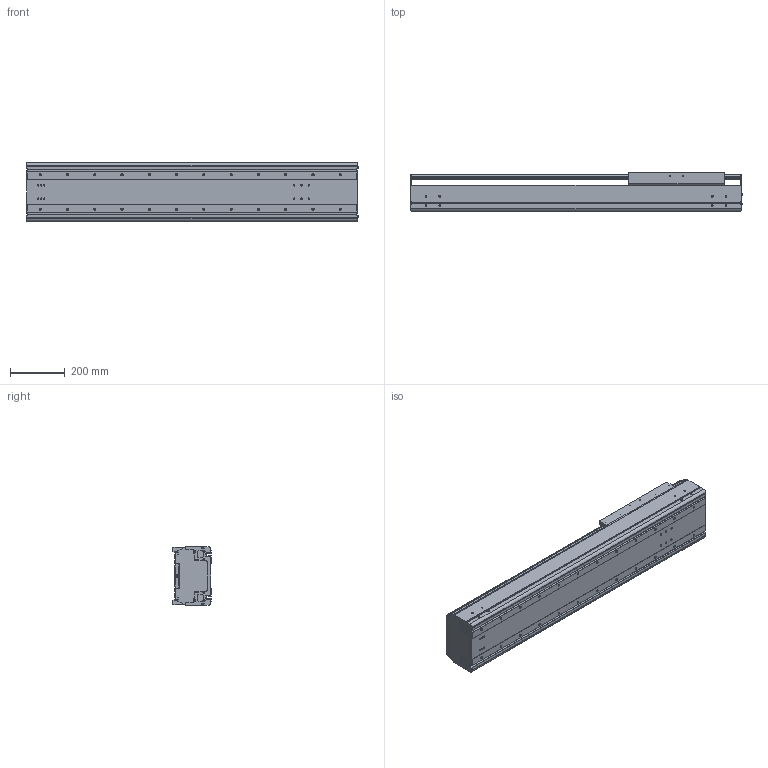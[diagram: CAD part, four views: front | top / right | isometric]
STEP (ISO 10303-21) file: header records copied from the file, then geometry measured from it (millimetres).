
FILE_DESCRIPTION((''),'2;1');
FILE_NAME('BE60G-ST-L_N-75_IGS_PRT','2017-06-18T',(' '),(''),'PRO/ENGINEER BY PARAMETRIC TECHNOLOGY CORPORATION, 2015030','PRO/ENGINEER BY PARAMETRIC TECHNOLOGY CORPORATION, 2015030','');
FILE_SCHEMA(('CONFIG_CONTROL_DESIGN'));
Length unit declared in the file: millimetre
Products named in the file (1): BE60G-ST-L_N-75_IGS_PRT
Bounding box: 1217.4 x 140 x 214 mm (x, y, z)
Volume: 10350451.4 mm3; surface area: 2704804.8 mm2
Topology: 2 solids, 136 shells, 1538 faces, 4276 edges, 2803 vertices
Faces by surface type: cylinder 776, plane 606, cone 108, sphere 24, torus 24
Entity records: 50965 total; most frequent: CARTESIAN_POINT 11205, DIRECTION 8432, ORIENTED_EDGE 7812, EDGE_CURVE 4170, AXIS2_PLACEMENT_3D 3143, VERTEX_POINT 2802, VECTOR 2146, LINE 2146
